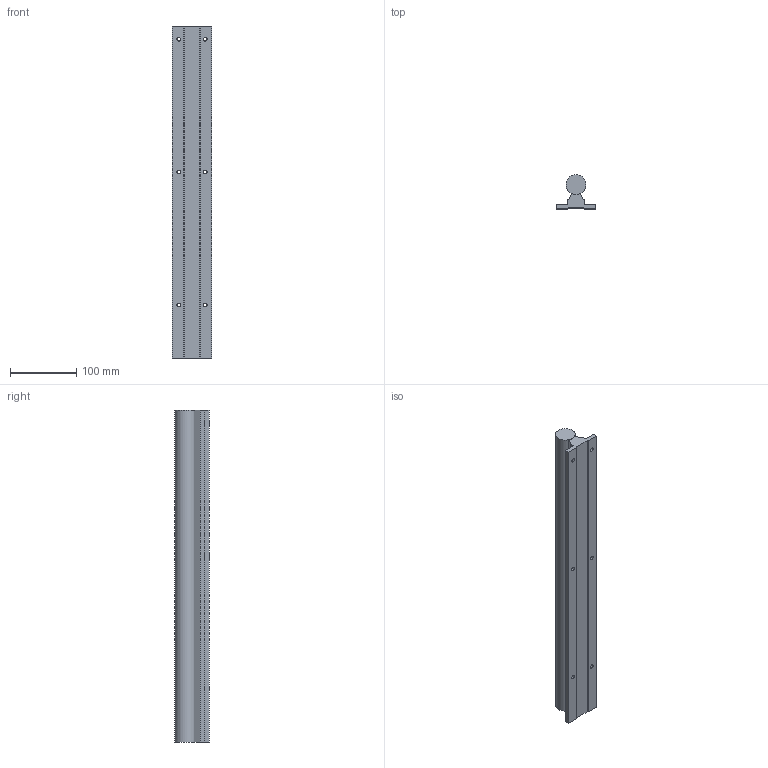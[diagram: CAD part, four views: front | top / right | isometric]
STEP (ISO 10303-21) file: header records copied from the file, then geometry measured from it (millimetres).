
FILE_DESCRIPTION(('STEP AP203'), '1');
FILE_NAME('SBS30', '', ('UNSPECIFIED'), ('UNSPECIFIED'), 'ASCON STEP Converter 1.6', 'ASCON Math Kernel', '');
FILE_SCHEMA(('CONFIG_CONTROL_DESIGN'));
Length unit declared in the file: millimetre
Products named in the file (1): SBS20
Bounding box: 60.08 x 51.42 x 500 mm (x, y, z)
Volume: 697791.8 mm3; surface area: 129966.4 mm2
Topology: 2 solids, 2 shells, 27 faces, 69 edges, 46 vertices
Faces by surface type: plane 19, cylinder 8
Full cylindrical faces by diameter (mm): 5.5 x6, 30 x1
Entity records: 1070 total; most frequent: CARTESIAN_POINT 136, DIRECTION 134, ORIENTED_EDGE 124, EDGE_CURVE 62, EDGE_LOOP 46, VERTEX_POINT 46, LINE 46, VECTOR 46
